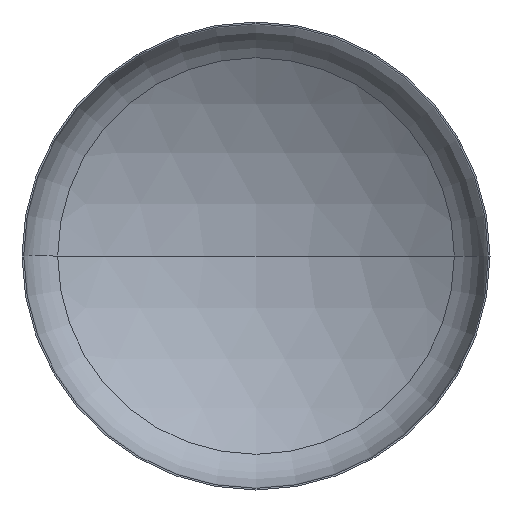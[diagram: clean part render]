
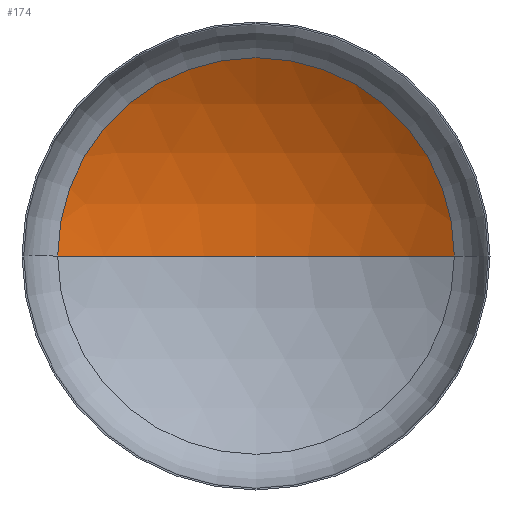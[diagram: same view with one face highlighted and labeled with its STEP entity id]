
A CAD part, front view. The second image highlights one B-rep face of the part: STEP entity #174.
In plain terms, the highlighted spherical face has radius 1760 mm.
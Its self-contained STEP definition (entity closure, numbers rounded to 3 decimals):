
#6 = DIRECTION ( 'NONE',  ( 1., 0., 0. ) ) ;
#8 = DIRECTION ( 'NONE',  ( 0., -1., 0. ) ) ;
#11 = EDGE_LOOP ( 'NONE', ( #69, #94, #104 ) ) ;
#12 = CARTESIAN_POINT ( 'NONE',  ( 0., 313.409, 0. ) ) ;
#44 = AXIS2_PLACEMENT_3D ( 'NONE', #263, #191, #250 ) ;
#49 = AXIS2_PLACEMENT_3D ( 'NONE', #192, #209, #205 ) ;
#54 = VERTEX_POINT ( 'NONE', #240 ) ;
#56 = AXIS2_PLACEMENT_3D ( 'NONE', #206, #354, #378 ) ;
#62 = AXIS2_PLACEMENT_3D ( 'NONE', #12, #8, #6 ) ;
#69 = ORIENTED_EDGE ( 'NONE', *, *, #168, .F. ) ;
#79 = VERTEX_POINT ( 'NONE', #230 ) ;
#91 = SPHERICAL_SURFACE ( 'NONE', #44, 1760. ) ;
#94 = ORIENTED_EDGE ( 'NONE', *, *, #165, .T. ) ;
#104 = ORIENTED_EDGE ( 'NONE', *, *, #162, .T. ) ;
#155 = CARTESIAN_POINT ( 'NONE',  ( 0., 580.469, 0. ) ) ;
#162 = EDGE_CURVE ( 'NONE', #54, #79, #340, .T. ) ;
#165 = EDGE_CURVE ( 'NONE', #188, #54, #276, .T. ) ;
#168 = EDGE_CURVE ( 'NONE', #188, #79, #214, .T. ) ;
#174 = ADVANCED_FACE ( 'NONE', ( #396 ), #91, .F. ) ;
#188 = VERTEX_POINT ( 'NONE', #155 ) ;
#191 = DIRECTION ( 'NONE',  ( 0., 0., -1. ) ) ;
#192 = CARTESIAN_POINT ( 'NONE',  ( 0., -1179.531, 0. ) ) ;
#205 = DIRECTION ( 'NONE',  ( 1., 0., 0. ) ) ;
#206 = CARTESIAN_POINT ( 'NONE',  ( 0., -1179.531, 0. ) ) ;
#209 = DIRECTION ( 'NONE',  ( 0., 0., 1. ) ) ;
#214 = CIRCLE ( 'NONE', #49, 1760. ) ;
#230 = CARTESIAN_POINT ( 'NONE',  ( -932.056, 313.409, 0. ) ) ;
#240 = CARTESIAN_POINT ( 'NONE',  ( 932.056, 313.409, 0. ) ) ;
#250 = DIRECTION ( 'NONE',  ( -1., 0., 0. ) ) ;
#263 = CARTESIAN_POINT ( 'NONE',  ( 0., -1179.531, 0. ) ) ;
#276 = CIRCLE ( 'NONE', #56, 1760. ) ;
#340 = CIRCLE ( 'NONE', #62, 932.056 ) ;
#354 = DIRECTION ( 'NONE',  ( 0., 0., -1. ) ) ;
#378 = DIRECTION ( 'NONE',  ( -1., 0., 0. ) ) ;
#396 = FACE_OUTER_BOUND ( 'NONE', #11, .T. ) ;
